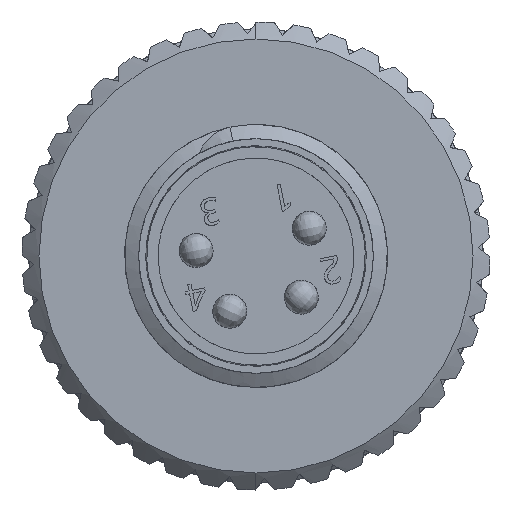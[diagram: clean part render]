
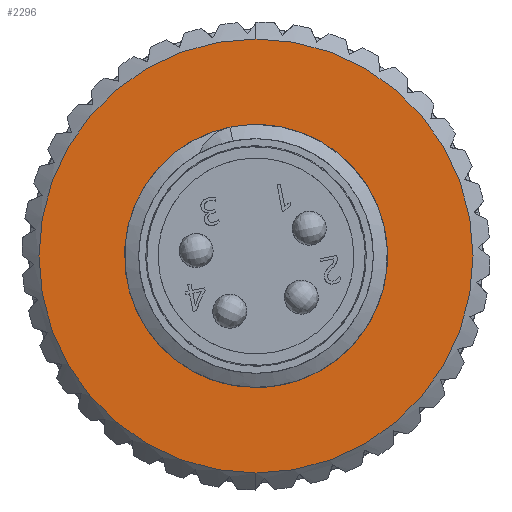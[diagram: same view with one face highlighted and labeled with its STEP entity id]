
A CAD part, front view. The second image highlights one B-rep face of the part: STEP entity #2296.
In plain terms, the highlighted planar face has unit normal (0, -1, 0).
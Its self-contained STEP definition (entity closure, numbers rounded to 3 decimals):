
#86 = CARTESIAN_POINT ( 'NONE',  ( -1.733, 5.794, 13.557 ) ) ;
#277 = CARTESIAN_POINT ( 'NONE',  ( -1.872, 5.794, 12.412 ) ) ;
#350 = ORIENTED_EDGE ( 'NONE', *, *, #34518, .F. ) ;
#363 = CARTESIAN_POINT ( 'NONE',  ( 1.749, 5.794, 12.832 ) ) ;
#450 = CARTESIAN_POINT ( 'NONE',  ( -1.082, 5.794, 10.273 ) ) ;
#705 = DIRECTION ( 'NONE',  ( 0., 1., 0. ) ) ;
#831 = DIRECTION ( 'NONE',  ( 0., 0., 1. ) ) ;
#1515 = EDGE_CURVE ( 'NONE', #12170, #40300, #15106, .T. ) ;
#2126 = CARTESIAN_POINT ( 'NONE',  ( 1.749, 5.794, 12.832 ) ) ;
#2296 = ADVANCED_FACE ( 'NONE', ( #50700, #7827 ), #7837, .F. ) ;
#2367 = EDGE_LOOP ( 'NONE', ( #5634, #22297, #49612, #9083, #53193, #49983 ) ) ;
#2858 = DIRECTION ( 'NONE',  ( 0., 0., 1. ) ) ;
#3353 = CARTESIAN_POINT ( 'NONE',  ( 4.046, 5.794, 9.806 ) ) ;
#3537 = CARTESIAN_POINT ( 'NONE',  ( 4.786, 5.794, 10.693 ) ) ;
#3719 = CARTESIAN_POINT ( 'NONE',  ( 5.21, 5.794, 13.371 ) ) ;
#4964 = DIRECTION ( 'NONE',  ( 0., 0., 1. ) ) ;
#5133 = CARTESIAN_POINT ( 'NONE',  ( 3.068, 5.794, 9.188 ) ) ;
#5634 = ORIENTED_EDGE ( 'NONE', *, *, #23128, .F. ) ;
#5705 = EDGE_CURVE ( 'NONE', #40300, #31078, #49895, .T. ) ;
#7827 = FACE_OUTER_BOUND ( 'NONE', #16850, .T. ) ;
#7837 = PLANE ( 'NONE',  #49979 ) ;
#7971 = CARTESIAN_POINT ( 'NONE',  ( 5.156, 5.794, 11.537 ) ) ;
#8125 = DIRECTION ( 'NONE',  ( 0., 0., -1. ) ) ;
#8146 = CARTESIAN_POINT ( 'NONE',  ( 5.26, 5.794, 11.991 ) ) ;
#9083 = ORIENTED_EDGE ( 'NONE', *, *, #21561, .F. ) ;
#10207 = AXIS2_PLACEMENT_3D ( 'NONE', #2126, #36202, #2858 ) ;
#11334 = CARTESIAN_POINT ( 'NONE',  ( 1.749, 5.794, 12.832 ) ) ;
#11890 = CARTESIAN_POINT ( 'NONE',  ( 1.749, 5.794, 19.232 ) ) ;
#12046 = CARTESIAN_POINT ( 'NONE',  ( -0.423, 5.794, 9.623 ) ) ;
#12170 = VERTEX_POINT ( 'NONE', #23658 ) ;
#12465 = CARTESIAN_POINT ( 'NONE',  ( -1.855, 5.794, 12.18 ) ) ;
#12653 = CARTESIAN_POINT ( 'NONE',  ( -1.474, 5.794, 14.203 ) ) ;
#12823 = CARTESIAN_POINT ( 'NONE',  ( -1.66, 5.794, 13.781 ) ) ;
#13147 = EDGE_CURVE ( 'NONE', #34095, #37066, #53511, .T. ) ;
#13174 = CARTESIAN_POINT ( 'NONE',  ( -0.423, 5.794, 9.623 ) ) ;
#15106 = CIRCLE ( 'NONE', #29844, 3.458 ) ;
#15572 = DIRECTION ( 'NONE',  ( 0., 0., 1. ) ) ;
#15923 = CARTESIAN_POINT ( 'NONE',  ( 1.749, 5.794, 12.832 ) ) ;
#16095 = CARTESIAN_POINT ( 'NONE',  ( 4.522, 5.794, 10.31 ) ) ;
#16277 = CARTESIAN_POINT ( 'NONE',  ( 4.899, 5.794, 10.896 ) ) ;
#16458 = CARTESIAN_POINT ( 'NONE',  ( 3.068, 5.794, 9.188 ) ) ;
#16850 = EDGE_LOOP ( 'NONE', ( #350, #43113 ) ) ;
#16888 = CARTESIAN_POINT ( 'NONE',  ( -1.833, 5.794, 13.106 ) ) ;
#16906 = DIRECTION ( 'NONE',  ( 0., -1., 0. ) ) ;
#17071 = CARTESIAN_POINT ( 'NONE',  ( -1.22, 5.794, 10.462 ) ) ;
#19852 = DIRECTION ( 'NONE',  ( 0., 0., 1. ) ) ;
#20178 = DIRECTION ( 'NONE',  ( 0., 0., -1. ) ) ;
#20350 = CARTESIAN_POINT ( 'NONE',  ( 5.083, 5.794, 11.317 ) ) ;
#20897 = CARTESIAN_POINT ( 'NONE',  ( 5.287, 5.794, 12.913 ) ) ;
#21134 = CARTESIAN_POINT ( 'NONE',  ( -1.779, 5.794, 11.726 ) ) ;
#21561 = EDGE_CURVE ( 'NONE', #31078, #38839, #24080, .T. ) ;
#22297 = ORIENTED_EDGE ( 'NONE', *, *, #39613, .F. ) ;
#23128 = EDGE_CURVE ( 'NONE', #54501, #12170, #28660, .T. ) ;
#23658 = CARTESIAN_POINT ( 'NONE',  ( 1.749, 5.794, 16.29 ) ) ;
#24080 = CIRCLE ( 'NONE', #29048, 3.875 ) ;
#24249 = DIRECTION ( 'NONE',  ( 0., 1., 0. ) ) ;
#25720 = CARTESIAN_POINT ( 'NONE',  ( -1.361, 5.794, 14.404 ) ) ;
#26228 = EDGE_CURVE ( 'NONE', #38839, #29546, #48312, .T. ) ;
#26310 = CARTESIAN_POINT ( 'NONE',  ( 1.749, 5.794, 12.832 ) ) ;
#28038 = AXIS2_PLACEMENT_3D ( 'NONE', #15923, #45387, #20178 ) ;
#28338 = AXIS2_PLACEMENT_3D ( 'NONE', #26310, #705, #4964 ) ;
#28660 = CIRCLE ( 'NONE', #40316, 3.458 ) ;
#28769 = CARTESIAN_POINT ( 'NONE',  ( 3.865, 5.794, 9.656 ) ) ;
#29048 = AXIS2_PLACEMENT_3D ( 'NONE', #363, #54375, #8125 ) ;
#29131 = CARTESIAN_POINT ( 'NONE',  ( 5.065, 5.794, 13.813 ) ) ;
#29256 = CARTESIAN_POINT ( 'NONE',  ( 1.749, 5.794, 6.432 ) ) ;
#29546 = VERTEX_POINT ( 'NONE', #5133 ) ;
#29844 = AXIS2_PLACEMENT_3D ( 'NONE', #51335, #16906, #831 ) ;
#29920 = CARTESIAN_POINT ( 'NONE',  ( -0.775, 5.794, 9.926 ) ) ;
#31078 = VERTEX_POINT ( 'NONE', #12046 ) ;
#31243 = CARTESIAN_POINT ( 'NONE',  ( 1.749, 5.794, 8.957 ) ) ;
#32992 = CARTESIAN_POINT ( 'NONE',  ( 5.149, 5.794, 13.595 ) ) ;
#34095 = VERTEX_POINT ( 'NONE', #29256 ) ;
#34518 = EDGE_CURVE ( 'NONE', #37066, #34095, #53415, .T. ) ;
#36202 = DIRECTION ( 'NONE',  ( 0., 1., 0. ) ) ;
#36999 = CARTESIAN_POINT ( 'NONE',  ( -1.226, 5.794, 14.595 ) ) ;
#37066 = VERTEX_POINT ( 'NONE', #11890 ) ;
#37069 = CARTESIAN_POINT ( 'NONE',  ( 4.374, 5.794, 10.132 ) ) ;
#37114 = CARTESIAN_POINT ( 'NONE',  ( 1.749, 5.794, 12.832 ) ) ;
#38392 = CARTESIAN_POINT ( 'NONE',  ( -1.557, 5.794, 11.065 ) ) ;
#38839 = VERTEX_POINT ( 'NONE', #31243 ) ;
#39613 = EDGE_CURVE ( 'NONE', #29546, #54501, #40932, .T. ) ;
#40300 = VERTEX_POINT ( 'NONE', #36999 ) ;
#40316 = AXIS2_PLACEMENT_3D ( 'NONE', #11334, #40779, #15572 ) ;
#40779 = DIRECTION ( 'NONE',  ( 0., -1., 0. ) ) ;
#40932 = B_SPLINE_CURVE_WITH_KNOTS ( 'NONE', 3,
 ( #16458, #49982, #45926, #28769, #3353, #37069, #16095, #3537, #16277, #20350, #7971, #8146, #41474, #54216, #20897, #3719, #32992, #29131 ),
 .UNSPECIFIED., .F., .F.,
 ( 4, 2, 2, 2, 2, 2, 2, 2, 4 ),
 ( 0., 0.001, 0.001, 0.002, 0.003, 0.003, 0.004, 0.005, 0.006 ),
 .UNSPECIFIED. ) ;
#41474 = CARTESIAN_POINT ( 'NONE',  ( 5.289, 5.794, 12.22 ) ) ;
#41905 = CARTESIAN_POINT ( 'NONE',  ( -0.607, 5.794, 9.767 ) ) ;
#42627 = CARTESIAN_POINT ( 'NONE',  ( -1.719, 5.794, 11.501 ) ) ;
#43113 = ORIENTED_EDGE ( 'NONE', *, *, #13147, .F. ) ;
#45387 = DIRECTION ( 'NONE',  ( 0., -1., 0. ) ) ;
#45926 = CARTESIAN_POINT ( 'NONE',  ( 3.483, 5.794, 9.396 ) ) ;
#46349 = CARTESIAN_POINT ( 'NONE',  ( -1.861, 5.794, 12.877 ) ) ;
#48280 = CARTESIAN_POINT ( 'NONE',  ( 5.065, 5.794, 13.813 ) ) ;
#48312 = CIRCLE ( 'NONE', #28038, 3.875 ) ;
#49612 = ORIENTED_EDGE ( 'NONE', *, *, #26228, .F. ) ;
#49895 = B_SPLINE_CURVE_WITH_KNOTS ( 'NONE', 3,
 ( #54644, #25720, #12653, #12823, #86, #16888, #46349, #277, #12465, #21134, #42627, #38392, #50591, #17071, #450, #29920, #41905, #13174 ),
 .UNSPECIFIED., .F., .F.,
 ( 4, 2, 2, 2, 2, 2, 2, 2, 4 ),
 ( 0., 0.001, 0.001, 0.002, 0.003, 0.003, 0.004, 0.005, 0.006 ),
 .UNSPECIFIED. ) ;
#49979 = AXIS2_PLACEMENT_3D ( 'NONE', #37114, #24249, #19852 ) ;
#49982 = CARTESIAN_POINT ( 'NONE',  ( 3.281, 5.794, 9.283 ) ) ;
#49983 = ORIENTED_EDGE ( 'NONE', *, *, #1515, .F. ) ;
#50591 = CARTESIAN_POINT ( 'NONE',  ( -1.457, 5.794, 10.857 ) ) ;
#50700 = FACE_BOUND ( 'NONE', #2367, .T. ) ;
#51335 = CARTESIAN_POINT ( 'NONE',  ( 1.749, 5.794, 12.832 ) ) ;
#53193 = ORIENTED_EDGE ( 'NONE', *, *, #5705, .F. ) ;
#53415 = CIRCLE ( 'NONE', #10207, 6.4 ) ;
#53511 = CIRCLE ( 'NONE', #28338, 6.4 ) ;
#54216 = CARTESIAN_POINT ( 'NONE',  ( 5.303, 5.794, 12.68 ) ) ;
#54375 = DIRECTION ( 'NONE',  ( 0., -1., 0. ) ) ;
#54501 = VERTEX_POINT ( 'NONE', #48280 ) ;
#54644 = CARTESIAN_POINT ( 'NONE',  ( -1.226, 5.794, 14.595 ) ) ;
